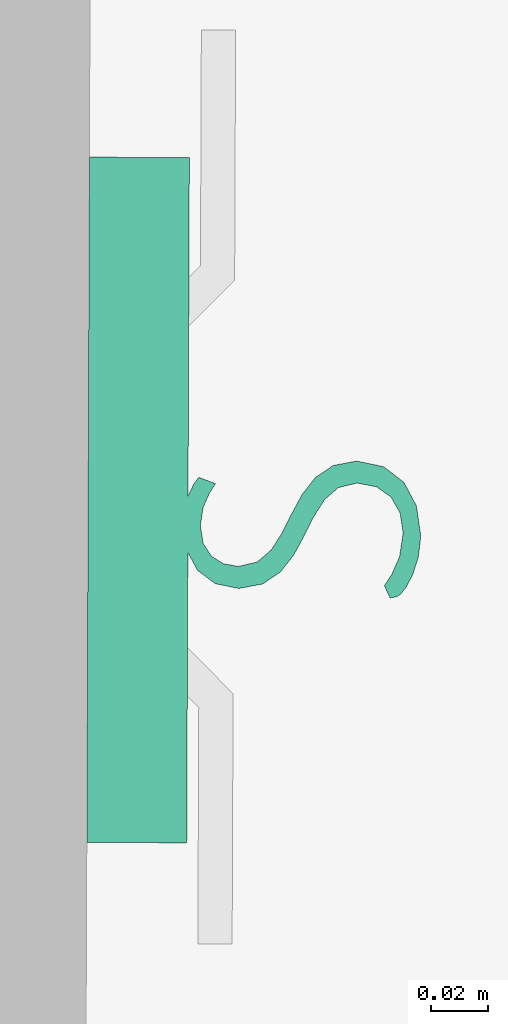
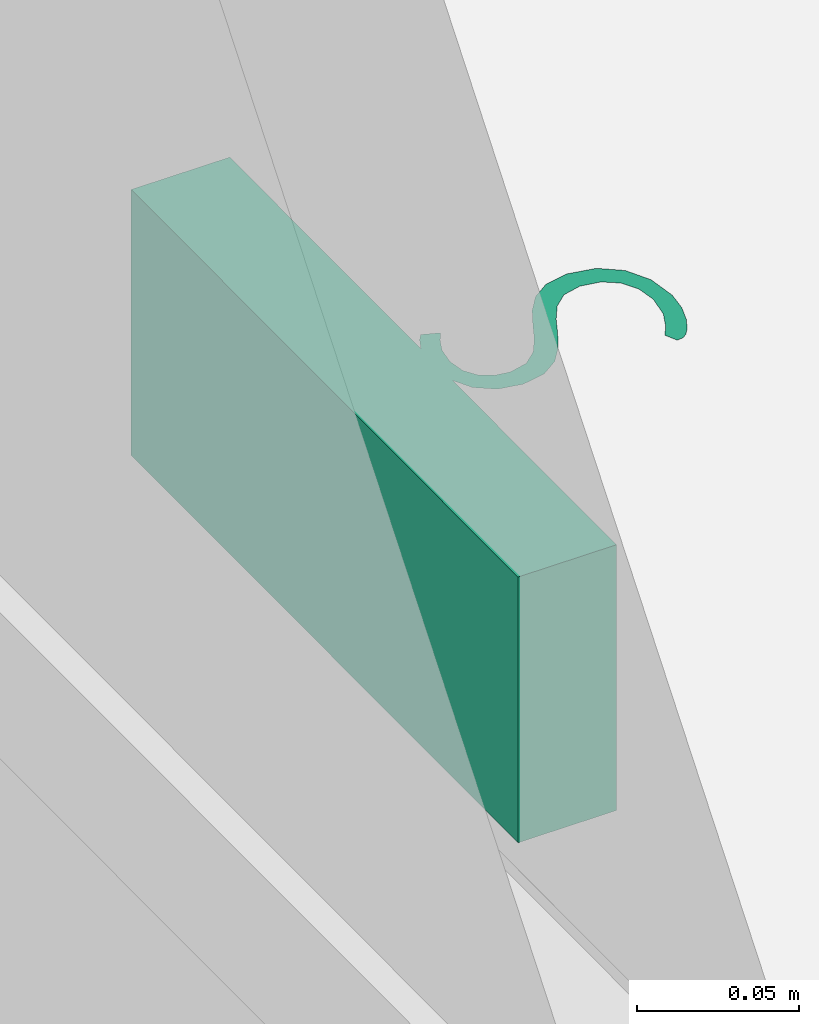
# One storey, part 80 of 128: 1 flow terminal.
"""IFC2X3 building model written with IfcOpenShell, lengths in metres."""

import ifcopenshell
import ifcopenshell.guid

model = None  # the IFC model being written
_history = None  # IfcOwnerHistory: only IFC2X3 demands one
_inside = {}  # id of a spatial element -> (the spatial element, [elements in it])
_under = {}  # id of a project, library or spatial element -> (it, [spatial elements below it])
_declared = {}  # id of a project -> (the project, [libraries it declares])
_typed = {}  # id of a type object -> (the type object, [elements of that type])
_made_of = {}  # id of a material, layer set ... -> (it, [elements and type objects made of it])


def new_model(schema):
    """Start an empty IFC model of exactly this schema.

    Asked for "IFC4X3", IfcOpenShell would pick the latest addendum, in which some entities
    have other attributes; the version numbers below select the first issue.
    IFC2X3 requires an IfcOwnerHistory on every rooted entity: one is made here for all.
    """
    global model, _history
    if schema == "IFC4X3":
        model = ifcopenshell.file(schema_version=(4, 3, 0, 0))
    else:
        model = ifcopenshell.file(schema=schema)
    _inside.clear()
    _under.clear()
    _declared.clear()
    _typed.clear()
    _made_of.clear()
    _history = None
    if model.schema == "IFC2X3":
        org = make("IfcOrganization", Name="unknown")
        user = make(
            "IfcPersonAndOrganization",
            ThePerson=make("IfcPerson", FamilyName="unknown"),
            TheOrganization=org,
        )
        app = make(
            "IfcApplication",
            ApplicationDeveloper=org,
            Version="unknown",
            ApplicationFullName="unknown",
            ApplicationIdentifier="unknown",
        )
        _history = make(
            "IfcOwnerHistory",
            OwningUser=user,
            OwningApplication=app,
            ChangeAction="ADDED",
            CreationDate=0,
        )
    return model


def make(cls, **values):
    """One entity of the class cls with the attributes given. An attribute that is None is left unset."""
    return model.create_entity(
        cls, **{name: value for name, value in values.items() if value is not None}
    )


def entity(cls, *values):
    """Any entity or typed value of the class cls, its attributes in the order of the schema. None: left unset."""
    e = model.create_entity(cls)
    for i, value in enumerate(values):
        if value is not None:
            e[i] = value
    return e


def rooted(cls, **values):
    """An entity with a GlobalId (a new one), such as an element, a storey or a relation."""
    return make(cls, GlobalId=ifcopenshell.guid.new(), OwnerHistory=_history, **values)


def si_unit(unit_type, name, prefix=None):
    """IfcSIUnit, for example si_unit("LENGTHUNIT", "METRE", prefix="MILLI")."""
    return make("IfcSIUnit", UnitType=unit_type, Prefix=prefix, Name=name)


def converted_unit(unit_type, name, factor, base, dimensions=None, offset=None):
    """IfcConversionBasedUnit, such as the inch: factor (a typed value) times the base unit."""
    return make(
        "IfcConversionBasedUnit"
        if offset is None
        else "IfcConversionBasedUnitWithOffset",
        ConversionOffset=offset,
        Dimensions=None
        if dimensions is None
        else entity("IfcDimensionalExponents", *dimensions),
        UnitType=unit_type,
        Name=name,
        ConversionFactor=make(
            "IfcMeasureWithUnit", ValueComponent=factor, UnitComponent=base
        ),
    )


def derived_unit(unit_type, elements):
    """IfcDerivedUnit: a product of units, each with its exponent."""
    return make(
        "IfcDerivedUnit",
        Elements=[
            make("IfcDerivedUnitElement", Unit=unit, Exponent=power)
            for unit, power in elements
        ],
        UnitType=unit_type,
    )


def assignment(units):
    """IfcUnitAssignment: the units of a project."""
    return None if units is None else make("IfcUnitAssignment", Units=units)


def point(xyz):
    """IfcCartesianPoint."""
    return None if xyz is None else make("IfcCartesianPoint", Coordinates=xyz)


def direction(xyz):
    """IfcDirection."""
    return None if xyz is None else make("IfcDirection", DirectionRatios=xyz)


def frame(location, z_axis=None, x_axis=None):
    """IfcAxis2Placement3D, a coordinate frame: its origin and axes. An axis left out is left unset."""
    return make(
        "IfcAxis2Placement3D",
        Location=point(location),
        Axis=direction(z_axis),
        RefDirection=direction(x_axis),
    )


def origin():
    """The frame at (0, 0, 0) with its axes left unset."""
    return frame((0.0, 0.0, 0.0))


def place(relative_to, where):
    """IfcLocalPlacement: puts the frame where relative to a parent placement (None: the world)."""
    return make(
        "IfcLocalPlacement", PlacementRelTo=relative_to, RelativePlacement=where
    )


def context(
    kind, dimensions, precision=None, world=None, true_north=None, identifier=None
):
    """IfcGeometricRepresentationContext, for example the 3D "Model" context."""
    return make(
        "IfcGeometricRepresentationContext",
        ContextIdentifier=identifier,
        ContextType=kind,
        CoordinateSpaceDimension=dimensions,
        Precision=precision,
        WorldCoordinateSystem=world,
        TrueNorth=true_north,
    )


def subcontext(parent, identifier, kind, view, scale=None):
    """IfcGeometricRepresentationSubContext, for example "Body" below "Model"."""
    return make(
        "IfcGeometricRepresentationSubContext",
        ContextIdentifier=identifier,
        ContextType=kind,
        ParentContext=parent,
        TargetScale=scale,
        TargetView=view,
    )


def project(units=None, contexts=None):
    """IfcProject with its units and contexts."""
    return rooted(
        "IfcProject",
        Name="project",
        RepresentationContexts=contexts,
        UnitsInContext=assignment(units),
    )


def spatial(cls, under=None, at=None, **own):
    """A site, building, storey or space (cls), placed at a placement, below another one or the project."""
    s = rooted(cls, ObjectPlacement=at, **own)
    if under is not None:
        _under.setdefault(under.id(), (under, []))[1].append(s)
    return s


def faces_of(points, faces, orient=None, outer=None):
    """IfcFace entities. A face is a list of loops; a loop is a list of indices into points, from 0.

    orient and outer hold one flag for each loop. By default every Orientation is true, the
    first loop of a face is its IfcFaceOuterBound and the others are IfcFaceBound.
    """
    made = []
    for i, loops in enumerate(faces):
        bounds = []
        for j, loop in enumerate(loops):
            is_outer = j == 0 if outer is None else outer[i][j]
            bounds.append(
                make(
                    "IfcFaceOuterBound" if is_outer else "IfcFaceBound",
                    Bound=make("IfcPolyLoop", Polygon=[points[k] for k in loop]),
                    Orientation=True if orient is None else orient[i][j],
                )
            )
        made.append(make("IfcFace", Bounds=bounds))
    return made


def face_set(faces, orient=None, outer=None):
    """The faces of one IfcConnectedFaceSet. surface_model builds it on its shared points."""
    return ("IfcConnectedFaceSet", faces, orient, outer)


def surface_model(cls, points, shells):
    """IfcFaceBasedSurfaceModel or IfcShellBasedSurfaceModel (cls): surfaces that need not close."""
    shared = [point(p) for p in points]
    made = [make(c, CfsFaces=faces_of(shared, fs, o, b)) for c, fs, o, b in shells]
    if cls == "IfcFaceBasedSurfaceModel":
        return make(cls, FbsmFaces=made)
    return make(cls, SbsmBoundary=made)


def shape(context_of_items, identifier, shape_type, items):
    """IfcShapeRepresentation: the items that make up one representation, for example the "Body"."""
    return make(
        "IfcShapeRepresentation",
        ContextOfItems=context_of_items,
        RepresentationIdentifier=identifier,
        RepresentationType=shape_type,
        Items=items,
    )


def source(mapping_origin, context_of_items, identifier, shape_type, items):
    """IfcRepresentationMap: a shape defined once, which mapped items show again and again."""
    return make(
        "IfcRepresentationMap",
        MappingOrigin=mapping_origin,
        MappedRepresentation=shape(context_of_items, identifier, shape_type, items),
    )


def transform(
    local_origin,
    x_axis=None,
    y_axis=None,
    z_axis=None,
    scale=None,
    scale2=None,
    scale3=None,
    uniform=True,
):
    """IfcCartesianTransformationOperator3D, or its non-uniform kind. x_axis, y_axis, z_axis: its Axis1, 2, 3."""
    if uniform:
        return make(
            "IfcCartesianTransformationOperator3D",
            Axis1=direction(x_axis),
            Axis2=direction(y_axis),
            LocalOrigin=point(local_origin),
            Scale=scale,
            Axis3=direction(z_axis),
        )
    return make(
        "IfcCartesianTransformationOperator3DnonUniform",
        Axis1=direction(x_axis),
        Axis2=direction(y_axis),
        LocalOrigin=point(local_origin),
        Scale=scale,
        Axis3=direction(z_axis),
        Scale2=scale2,
        Scale3=scale3,
    )


def mapped(mapping_source, mapping_target):
    """IfcMappedItem: shows the shape of a source again, moved by a transform."""
    return make(
        "IfcMappedItem", MappingSource=mapping_source, MappingTarget=mapping_target
    )


def material(Name=None, Category=None):
    """IfcMaterial."""
    return make("IfcMaterial", Name=Name, Category=Category)


def made_of(thing, what):
    """Note that an element or type object is made of a material, layer set ...; save() writes the relation."""
    if what is not None:
        _made_of.setdefault(what.id(), (what, []))[1].append(thing)
    return thing


def type_object(cls, material=None, **own):
    """A type object (cls), such as IfcWallType, which elements share."""
    return made_of(rooted(cls, **own), material)


def type_shapes(of_type, sources):
    """Give a type object the sources (RepresentationMaps) that its elements show as mapped items."""
    of_type.RepresentationMaps = sources


def element(
    cls,
    number,
    at=None,
    inside=None,
    cuts=None,
    type_object=None,
    material=None,
    context=None,
    identifier="Body",
    shape_type=None,
    held_by="IfcProductDefinitionShape",
    body=None,
    shapes=None,
    **own,
):
    """One element of the class cls, such as IfcWall. Its Tag is "e" and its number.

    at: its placement. inside: the storey or other place that contains it. cuts: it is an
    opening in that element (IfcRelVoidsElement). A single representation is given by context,
    identifier, shape_type and body (its items); several are given by shapes. held_by: the class
    of the entity that holds the representations. save() writes the other relations.
    """
    e = rooted(cls, Tag="e%d" % number, ObjectPlacement=at, **own)
    if body is not None:
        shapes = [shape(context, identifier, shape_type, body)]
    if shapes is not None:
        e.Representation = make(held_by, Representations=shapes)
    if inside is not None:
        _inside.setdefault(inside.id(), (inside, []))[1].append(e)
    if cuts is not None:
        rooted(
            "IfcRelVoidsElement", RelatingBuildingElement=cuts, RelatedOpeningElement=e
        )
    if type_object is not None:
        _typed.setdefault(type_object.id(), (type_object, []))[1].append(e)
    return made_of(e, material)


def aggregate(whole, parts):
    """IfcRelAggregates: a whole, such as a stair, and the parts it consists of."""
    return rooted("IfcRelAggregates", RelatingObject=whole, RelatedObjects=parts)


def save(model, path):
    """Write the relations noted so far, then the file.

    IfcRelAggregates (storeys below a building ...), IfcRelContainedInSpatialStructure (elements
    in a storey), IfcRelDefinesByType, IfcRelAssociatesMaterial and IfcRelDeclares: one each for
    every whole, place, type object, material and project.
    """
    for whole, parts in _under.values():
        aggregate(whole, parts)
    for where, things in _inside.values():
        rooted(
            "IfcRelContainedInSpatialStructure",
            RelatedElements=things,
            RelatingStructure=where,
        )
    for kind, things in _typed.values():
        rooted("IfcRelDefinesByType", RelatedObjects=things, RelatingType=kind)
    for what, things in _made_of.values():
        rooted("IfcRelAssociatesMaterial", RelatedObjects=things, RelatingMaterial=what)
    for by, libraries in _declared.values():
        rooted("IfcRelDeclares", RelatingContext=by, RelatedDefinitions=libraries)
    model.write(path)


model = new_model("IFC2X3")

# Units and contexts
model_context = context("Model", 3, precision=1e-05, world=origin(), true_north=direction((6.123031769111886e-17, 1.0)))
body_context = subcontext(model_context, "Body", "Model", "MODEL_VIEW")
ifc_project = project(units=[si_unit("LENGTHUNIT", "METRE"), si_unit("AREAUNIT", "SQUARE_METRE"), converted_unit("PLANEANGLEUNIT", "DEGREE", entity("IfcPlaneAngleMeasure", 0.017453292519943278), si_unit("PLANEANGLEUNIT", "RADIAN"), dimensions=[0, 0, 0, 0, 0, 0, 0]), derived_unit("THERMALTRANSMITTANCEUNIT", [(si_unit("MASSUNIT", "GRAM", prefix="KILO"), 1), (si_unit("THERMODYNAMICTEMPERATUREUNIT", "KELVIN"), -1), (si_unit("TIMEUNIT", "SECOND"), -3)])], contexts=[model_context])

# Site, building, storey
site_placement = place(None, origin())
site = spatial("IfcSite", under=ifc_project, at=site_placement, Name="Default", CompositionType="ELEMENT")
building_placement = place(site_placement, origin())
building = spatial("IfcBuilding", under=site, at=building_placement, CompositionType="ELEMENT")
storey_placement = place(building_placement, origin())
storey = spatial("IfcBuildingStorey", under=building, at=storey_placement, Name="00_RDC CAF", CompositionType="ELEMENT", Elevation=2.4982504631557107e-13)

# Flow terminal
ifc_material = material(Name="ARC - Eq Elec - Blanc")
light_fixture_type = type_object("IfcLightFixtureType", Name="Eq_Elec_Eclairage_secours_BAES:Eq_Elec_Eclairage secours BAES_240x35x100mm", PredefinedType="NOTDEFINED", material=ifc_material)
shared_shape = source(origin(), body_context, "Body", "SurfaceModel", [
    surface_model("IfcFaceBasedSurfaceModel", [(0.013932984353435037, 0.049999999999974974, 0.09396213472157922), (0.012340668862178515, 0.04999999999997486, 0.0857472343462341), (0.008130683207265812, 0.049999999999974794, 0.07955891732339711), (0.002183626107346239, 0.049999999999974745, 0.07496291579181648), (-0.00459577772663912, 0.04999999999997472, 0.07133195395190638), (-0.01137518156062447, 0.04999999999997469, 0.06795431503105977), (-0.017322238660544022, 0.049999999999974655, 0.06416653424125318), (-0.021532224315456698, 0.0499999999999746, 0.0593292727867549), (-0.02312453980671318, 0.049999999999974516, 0.052754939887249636), (-0.02224394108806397, 0.04999999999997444, 0.04756785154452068), (-0.019614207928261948, 0.04999999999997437, 0.04328548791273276), (-0.015199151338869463, 0.04999999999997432, 0.040402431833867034), (-0.008962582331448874, 0.04999999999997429, 0.039340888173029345), (-0.00249681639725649, 0.04999999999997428, 0.04029386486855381), (0.0024007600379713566, 0.049999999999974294, 0.04242901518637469), (0.005814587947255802, 0.04999999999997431, 0.04456416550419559), (0.008046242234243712, 0.049999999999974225, 0.03870154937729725), (0.005681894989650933, 0.04999999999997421, 0.03700066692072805), (0.00161666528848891, 0.04999999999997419, 0.035094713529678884), (-0.0032205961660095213, 0.04999999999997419, 0.033707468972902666), (-0.008287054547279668, 0.049999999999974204, 0.03316463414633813), (-0.017430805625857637, 0.049999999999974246, 0.03451568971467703), (-0.024584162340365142, 0.04999999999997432, 0.03842410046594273), (-0.029204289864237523, 0.04999999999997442, 0.044648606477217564), (-0.030844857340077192, 0.04999999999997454, 0.05292382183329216), (-0.02925254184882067, 0.04999999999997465, 0.06123522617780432), (-0.025042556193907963, 0.049999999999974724, 0.06743560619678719), (-0.01910756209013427, 0.049999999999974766, 0.07205573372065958), (-0.012316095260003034, 0.0499999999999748, 0.07572288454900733), (-0.005524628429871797, 0.04999999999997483, 0.07908846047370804), (0.0004103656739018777, 0.04999999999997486, 0.08284005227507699), (0.004620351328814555, 0.04999999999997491, 0.08765318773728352), (0.006212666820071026, 0.049999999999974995, 0.09420339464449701), (0.004921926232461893, 0.0499999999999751, 0.10105517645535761), (0.0013150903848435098, 0.049999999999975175, 0.10612163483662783), (-0.004197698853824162, 0.049999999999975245, 0.10927007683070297), (-0.011230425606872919, 0.04999999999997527, 0.11036780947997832), (-0.01948151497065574, 0.049999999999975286, 0.10914944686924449), (-0.02556126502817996, 0.049999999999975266, 0.10650765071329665), (-0.029698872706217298, 0.049999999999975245, 0.10386585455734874), (-0.033932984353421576, 0.049999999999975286, 0.10585624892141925), (-0.033619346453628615, 0.04999999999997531, 0.10796727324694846), (-0.03261811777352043, 0.04999999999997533, 0.10961990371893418), (-0.0300969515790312, 0.04999999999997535, 0.11156204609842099), (-0.025585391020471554, 0.04999999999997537, 0.11382988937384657), (-0.01948151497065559, 0.04999999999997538, 0.11574790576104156), (-0.01217133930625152, 0.04999999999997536, 0.11654406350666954), (-0.0017006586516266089, 0.04999999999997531, 0.11499999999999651), (0.006586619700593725, 0.049999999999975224, 0.11053669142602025), (0.012002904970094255, 0.049999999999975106, 0.10343158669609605), (0.023932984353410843, -0.014873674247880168, 0.03499999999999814), (0.022340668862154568, -0.006658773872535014, 0.03499999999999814), (0.01813068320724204, -0.000470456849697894, 0.03499999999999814), (0.012183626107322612, 0.004125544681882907, 0.03499999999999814), (0.0054042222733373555, 0.007756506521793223, 0.03499999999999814), (-0.0013751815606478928, 0.011134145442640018, 0.03499999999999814), (-0.007322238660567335, 0.01492192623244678, 0.03499999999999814), (-0.01153222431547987, 0.019759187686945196, 0.03499999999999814), (-0.013124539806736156, 0.0263335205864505, 0.03499999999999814), (-0.012243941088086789, 0.03152060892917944, 0.03499999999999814), (-0.009614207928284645, 0.035802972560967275, 0.03499999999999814), (-0.005199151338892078, 0.03868602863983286, 0.03499999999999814), (0.0010374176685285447, 0.03974757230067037, 0.03499999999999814), (0.007503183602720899, 0.03879459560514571, 0.03499999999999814), (0.012400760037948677, 0.036659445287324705, 0.03499999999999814), (0.015814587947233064, 0.03452429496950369, 0.03499999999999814), (0.018046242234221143, 0.04038691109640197, 0.03499999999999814), (0.015681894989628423, 0.04208779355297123, 0.03499999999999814), (0.011616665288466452, 0.04399374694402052, 0.03499999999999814), (0.006779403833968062, 0.04538099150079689, 0.03499999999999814), (0.0017129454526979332, 0.04592382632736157, 0.03499999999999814), (-0.00743080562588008, 0.04457277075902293, 0.03499999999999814), (-0.014584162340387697, 0.04066436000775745, 0.03499999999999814), (-0.019204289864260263, 0.03443985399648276, 0.03499999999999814), (-0.020844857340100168, 0.026164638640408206, 0.03499999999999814), (-0.019252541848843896, 0.017853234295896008, 0.03499999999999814), (-0.015042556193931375, 0.011652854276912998, 0.03499999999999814), (-0.009107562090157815, 0.007032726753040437, 0.03499999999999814), (-0.002316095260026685, 0.0033655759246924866, 0.03499999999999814), (0.00447537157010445, 0.0, 0.03499999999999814), (0.010410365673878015, -0.0037515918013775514, 0.03499999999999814), (0.014620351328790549, -0.0085647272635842, 0.03499999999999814), (0.016212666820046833, -0.015114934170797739, 0.03499999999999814), (0.014921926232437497, -0.021966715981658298, 0.03499999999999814), (0.011315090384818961, -0.02703317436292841, 0.03499999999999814), (0.005802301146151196, -0.030181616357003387, 0.03499999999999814), (-0.0012304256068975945, -0.03127934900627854, 0.03499999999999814), (-0.009481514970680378, -0.030060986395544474, 0.03499999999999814), (-0.015561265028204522, -0.027419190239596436, 0.03499999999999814), (-0.019698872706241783, -0.02477739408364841, 0.03499999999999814), (-0.023932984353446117, -0.02676778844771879, 0.03499999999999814), (-0.02361934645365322, -0.028878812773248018, 0.03499999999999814), (-0.022618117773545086, -0.030531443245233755, 0.03499999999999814), (-0.02009695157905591, -0.032473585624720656, 0.03499999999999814), (-0.015585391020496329, -0.034741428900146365, 0.03499999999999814), (-0.009481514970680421, -0.03665944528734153, 0.03499999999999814), (-0.0021713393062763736, -0.03745560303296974, 0.03499999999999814), (0.008299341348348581, -0.035911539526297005, 0.03499999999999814), (0.01658661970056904, -0.03144823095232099, 0.03499999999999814), (0.02200290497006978, -0.024343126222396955, 0.03499999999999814), (0.12000000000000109, 0.04999999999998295, 0.03499999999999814), (0.12000000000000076, -0.050000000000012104, 0.03499999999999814), (-0.11999999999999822, -0.05000000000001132, 0.03499999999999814), (-0.11999999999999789, 0.049999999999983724, 0.03499999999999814), (0.12000000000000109, 0.04999999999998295, 0.0), (0.12000000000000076, -0.050000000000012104, 0.0), (-0.11999999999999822, -0.05000000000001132, 0.0), (-0.11999999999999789, 0.049999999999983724, 0.0)], [face_set([[[0, 1, 2, 3, 4, 5, 6, 7, 8, 9, 10, 11, 12, 13, 14, 15, 16, 17, 18, 19, 20, 21, 22, 23, 24, 25, 26, 27, 28, 29, 30, 31, 32, 33, 34, 35, 36, 37, 38, 39, 40, 41, 42, 43, 44, 45, 46, 47, 48, 49]]]), face_set([[[50, 51, 52, 53, 54, 55, 56, 57, 58, 59, 60, 61, 62, 63, 64, 65, 66, 67, 68, 69, 70, 71, 72, 73, 74, 75, 76, 77, 78, 79, 80, 81, 82, 83, 84, 85, 86, 87, 88, 89, 90, 91, 92, 93, 94, 95, 96, 97, 98, 99]]]), face_set([[[100, 101, 102, 103]], [[104, 105, 106, 107]], [[103, 100, 104, 107]], [[102, 103, 107, 106]], [[101, 102, 106, 105]], [[100, 101, 105, 104]]])]),
])
type_shapes(light_fixture_type, [shared_shape])
flow_terminal_placement = place(storey_placement, frame((24.664447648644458, 132.42874157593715, 2.1800000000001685), z_axis=(0.9999927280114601, -0.0038136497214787, 0.0), x_axis=(0.0038136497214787, 0.9999927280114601, 0.0)))
element("IfcFlowTerminal", 1, at=flow_terminal_placement, inside=storey, type_object=light_fixture_type, material=ifc_material, Name="Eq_Elec_Eclairage_secours_BAES:Eq_Elec_Eclairage secours BAES_240x35x100mm", ObjectType="Eq_Elec_Eclairage_secours_BAES:Eq_Elec_Eclairage secours BAES_240x35x100mm", context=body_context, shape_type="MappedRepresentation", body=[
    mapped(shared_shape, transform((0.0, 0.0, 0.0), scale=1.0)),
])

save(model, "model.ifc")
